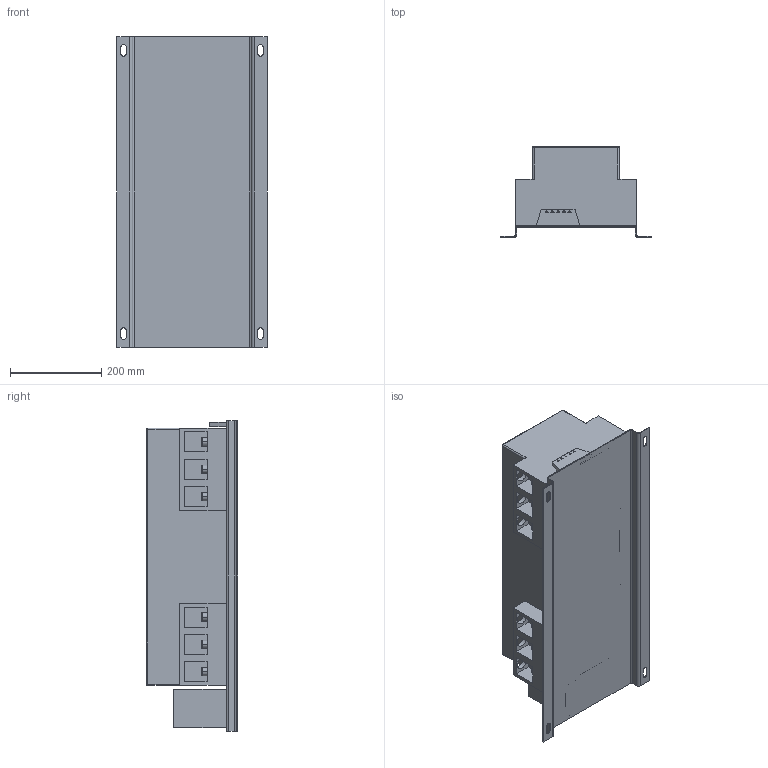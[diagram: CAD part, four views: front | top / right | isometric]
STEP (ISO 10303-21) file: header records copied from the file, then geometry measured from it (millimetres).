
FILE_DESCRIPTION (( 'STEP AP203' ), '1' );
FILE_NAME ('Óñòðîéñòâà ÀÂÐ ÒÑÌ 630-630À 3ð.STEP', '2018-05-22T11:08:01', ( '' ), ( '' ), 'SwSTEP 2.0', 'SolidWorks 2017', '' );
FILE_SCHEMA (( 'CONFIG_CONTROL_DESIGN' ));
Length unit declared in the file: millimetre
Products named in the file (1): Óñòðîéñòâà ÀÂÐ ÒÑÌ 630-630À 3ð
Bounding box: 330 x 200 x 680 mm (x, y, z)
Volume: 22371721.3 mm3; surface area: 954027.1 mm2
Topology: 1 solids, 1 shells, 476 faces, 1202 edges, 784 vertices
Faces by surface type: plane 334, cylinder 104, torus 34, sphere 4
Entity records: 14417 total; most frequent: CARTESIAN_POINT 2659, DIRECTION 2398, ORIENTED_EDGE 2396, EDGE_CURVE 1198, LINE 872, VECTOR 872, VERTEX_POINT 784, AXIS2_PLACEMENT_3D 763
